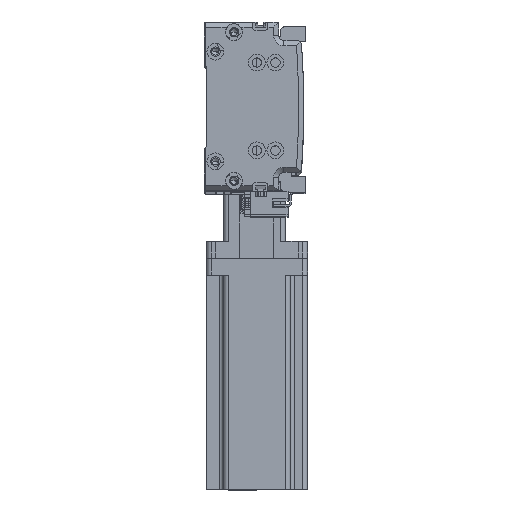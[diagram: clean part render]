
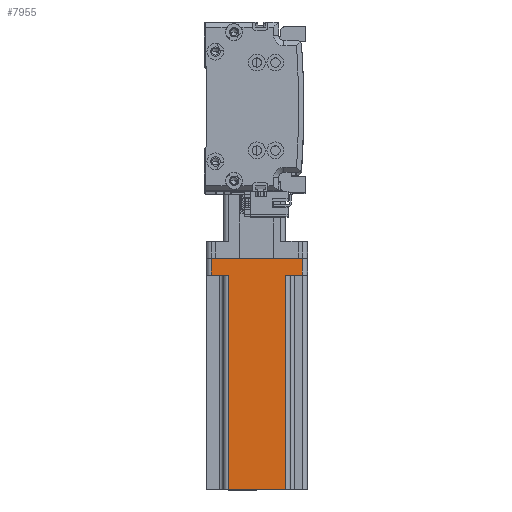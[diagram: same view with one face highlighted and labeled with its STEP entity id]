
A CAD part, top view. The second image highlights one B-rep face of the part: STEP entity #7955.
In plain terms, the highlighted planar face has unit normal (0, 0, 1) as drawn and (0, 1, 0) by its records, which use the part's own axes.
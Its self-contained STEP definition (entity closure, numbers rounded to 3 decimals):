
#61 = DIRECTION ( 'NONE',  ( 0., -1., 0. ) ) ;
#500 = VECTOR ( 'NONE', #33069, 1000. ) ;
#866 = DIRECTION ( 'NONE',  ( 1., 0., 0. ) ) ;
#926 = EDGE_CURVE ( 'NONE', #42536, #19508, #37032, .T. ) ;
#1469 = LINE ( 'NONE', #28427, #9686 ) ;
#1968 = CARTESIAN_POINT ( 'NONE',  ( -27., 30., 10. ) ) ;
#3969 = DIRECTION ( 'NONE',  ( -1., 0., 0. ) ) ;
#4180 = CARTESIAN_POINT ( 'NONE',  ( -27., 30., 0. ) ) ;
#5089 = CARTESIAN_POINT ( 'NONE',  ( -17., 30., 137. ) ) ;
#5118 = FACE_OUTER_BOUND ( 'NONE', #7713, .T. ) ;
#7713 = EDGE_LOOP ( 'NONE', ( #36114, #23456, #11055, #41797, #14489, #25555, #11347, #10037 ) ) ;
#7955 = ADVANCED_FACE ( 'NONE', ( #5118 ), #35959, .F. ) ;
#8445 = CARTESIAN_POINT ( 'NONE',  ( 17., 30., 137. ) ) ;
#8497 = CARTESIAN_POINT ( 'NONE',  ( 27., 30., 0. ) ) ;
#9087 = DIRECTION ( 'NONE',  ( 0., 0., -1. ) ) ;
#9108 = LINE ( 'NONE', #32539, #50325 ) ;
#9686 = VECTOR ( 'NONE', #32430, 1000. ) ;
#9848 = VERTEX_POINT ( 'NONE', #29530 ) ;
#10037 = ORIENTED_EDGE ( 'NONE', *, *, #23161, .T. ) ;
#11055 = ORIENTED_EDGE ( 'NONE', *, *, #21243, .F. ) ;
#11100 = LINE ( 'NONE', #35500, #41678 ) ;
#11347 = ORIENTED_EDGE ( 'NONE', *, *, #926, .T. ) ;
#14099 = EDGE_CURVE ( 'NONE', #9848, #42536, #1469, .T. ) ;
#14489 = ORIENTED_EDGE ( 'NONE', *, *, #21189, .F. ) ;
#15905 = CARTESIAN_POINT ( 'NONE',  ( 17., 30., 10. ) ) ;
#18691 = VERTEX_POINT ( 'NONE', #1968 ) ;
#19254 = VECTOR ( 'NONE', #3969, 1000. ) ;
#19508 = VERTEX_POINT ( 'NONE', #4180 ) ;
#21189 = EDGE_CURVE ( 'NONE', #9848, #40856, #11100, .T. ) ;
#21243 = EDGE_CURVE ( 'NONE', #39178, #45702, #29850, .T. ) ;
#21884 = LINE ( 'NONE', #5089, #500 ) ;
#23161 = EDGE_CURVE ( 'NONE', #19508, #18691, #9108, .T. ) ;
#23456 = ORIENTED_EDGE ( 'NONE', *, *, #28191, .T. ) ;
#23994 = CARTESIAN_POINT ( 'NONE',  ( 30., 30., 137. ) ) ;
#24114 = CARTESIAN_POINT ( 'NONE',  ( 30., 30., 137. ) ) ;
#24451 = VECTOR ( 'NONE', #9087, 1000. ) ;
#25205 = VECTOR ( 'NONE', #36764, 1000. ) ;
#25555 = ORIENTED_EDGE ( 'NONE', *, *, #14099, .T. ) ;
#27826 = VECTOR ( 'NONE', #866, 1000. ) ;
#28111 = DIRECTION ( 'NONE',  ( 1., 0., 0. ) ) ;
#28191 = EDGE_CURVE ( 'NONE', #44218, #45702, #21884, .T. ) ;
#28427 = CARTESIAN_POINT ( 'NONE',  ( 27., 30., 137. ) ) ;
#29530 = CARTESIAN_POINT ( 'NONE',  ( 27., 30., 10. ) ) ;
#29850 = LINE ( 'NONE', #23994, #19254 ) ;
#30166 = CARTESIAN_POINT ( 'NONE',  ( -17., 30., 137. ) ) ;
#32430 = DIRECTION ( 'NONE',  ( 0., 0., -1. ) ) ;
#32539 = CARTESIAN_POINT ( 'NONE',  ( -27., 30., 137. ) ) ;
#33051 = CARTESIAN_POINT ( 'NONE',  ( 17., 30., 137. ) ) ;
#33069 = DIRECTION ( 'NONE',  ( 0., 0., 1. ) ) ;
#33349 = CARTESIAN_POINT ( 'NONE',  ( -17., 30., 10. ) ) ;
#35500 = CARTESIAN_POINT ( 'NONE',  ( 20., 30., 10. ) ) ;
#35959 = PLANE ( 'NONE',  #48821 ) ;
#36114 = ORIENTED_EDGE ( 'NONE', *, *, #41516, .T. ) ;
#36764 = DIRECTION ( 'NONE',  ( -1., 0., 0. ) ) ;
#36952 = CARTESIAN_POINT ( 'NONE',  ( -20., 30., 10. ) ) ;
#37032 = LINE ( 'NONE', #37454, #25205 ) ;
#37454 = CARTESIAN_POINT ( 'NONE',  ( 30., 30., 0. ) ) ;
#39178 = VERTEX_POINT ( 'NONE', #8445 ) ;
#39290 = DIRECTION ( 'NONE',  ( -1., 0., 0. ) ) ;
#39632 = LINE ( 'NONE', #36952, #27826 ) ;
#39827 = EDGE_CURVE ( 'NONE', #39178, #40856, #45606, .T. ) ;
#40856 = VERTEX_POINT ( 'NONE', #15905 ) ;
#41516 = EDGE_CURVE ( 'NONE', #18691, #44218, #39632, .T. ) ;
#41678 = VECTOR ( 'NONE', #39290, 1000. ) ;
#41797 = ORIENTED_EDGE ( 'NONE', *, *, #39827, .T. ) ;
#42536 = VERTEX_POINT ( 'NONE', #8497 ) ;
#44218 = VERTEX_POINT ( 'NONE', #33349 ) ;
#45606 = LINE ( 'NONE', #33051, #24451 ) ;
#45702 = VERTEX_POINT ( 'NONE', #30166 ) ;
#48545 = DIRECTION ( 'NONE',  ( 0., 0., 1. ) ) ;
#48821 = AXIS2_PLACEMENT_3D ( 'NONE', #24114, #61, #28111 ) ;
#50325 = VECTOR ( 'NONE', #48545, 1000. ) ;
